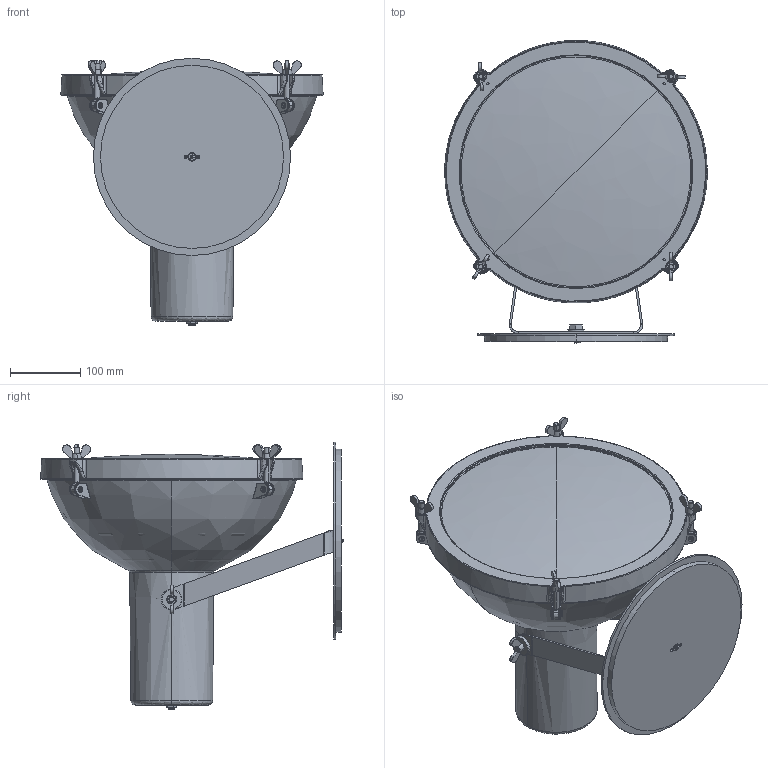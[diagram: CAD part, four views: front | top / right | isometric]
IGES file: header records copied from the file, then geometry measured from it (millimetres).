
Start section: SolidWorks IGES file using analytic representation for surfaces
Global section: file name: H:\importazione sito nemo\IMPORT GIUGNO 2016\materiali\110-projecteur-365-floor\downloads\800PRJEDW2B1.IGS; native system: SolidWorks 2016; preprocessor: SolidWorks 2016; author: gpinheiro; date: 160907.112957; units: millimetre
Bounding box: 372.67 x 430.13 x 379.77 mm (x, y, z)
Volume: 1772128.9 mm3; surface area: 1225936.8 mm2
Topology: 119 solids, 122 shells, 2790 faces, 6726 edges, 4180 vertices
Faces by surface type: revolution 1437, plane 1073, bspline 280
